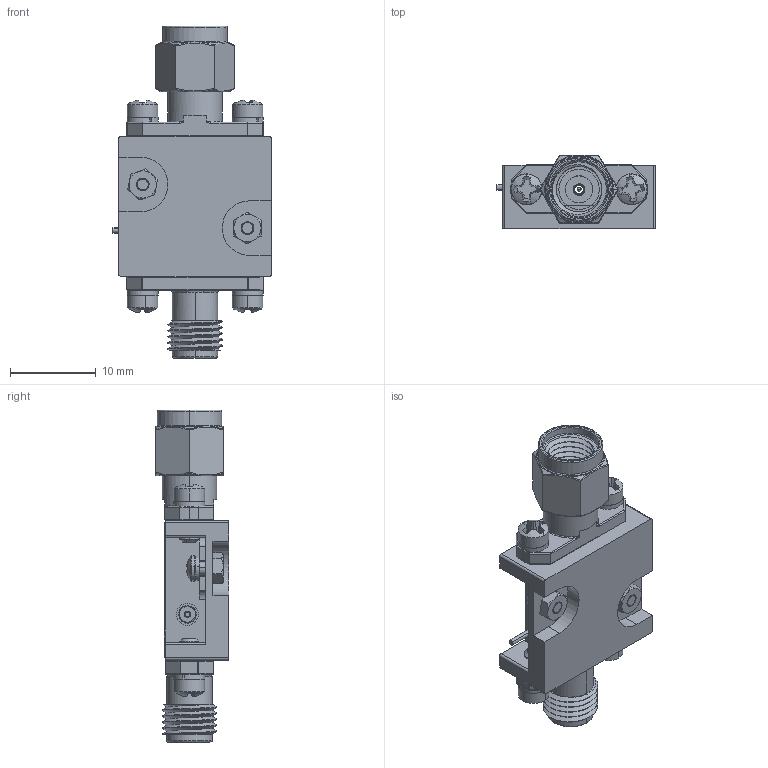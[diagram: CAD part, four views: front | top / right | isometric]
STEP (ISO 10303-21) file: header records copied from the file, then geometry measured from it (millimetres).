
FILE_DESCRIPTION (( 'STEP AP214' ), '1' );
FILE_NAME ('PLNA-910-16-6-17-SMF.STEP', '2024-10-18T17:59:52', ( '' ), ( '' ), 'SwSTEP 2.0', 'SolidWorks 2024', '' );
FILE_SCHEMA (( 'AUTOMOTIVE_DESIGN' ));
Length unit declared in the file: inch
Products named in the file (1): PLNA-910-16-6-17-SMF
Bounding box: 18.49 x 8.53 x 38.63 mm (x, y, z)
Surface area: 2949.8 mm2 (no closed solid volume)
Topology: 0 solids, 28 shells, 776 faces, 2993 edges, 2336 vertices
Faces by surface type: plane 362, cylinder 187, torus 78, cone 71, bspline 46, sphere 32
Entity records: 48114 total; most frequent: CARTESIAN_POINT 13576, ORIENTED_EDGE 5608, DIRECTION 4524, EDGE_CURVE 2973, VERTEX_POINT 2336, AXIS2_PLACEMENT_3D 1549, VECTOR 1426, LINE 1426
